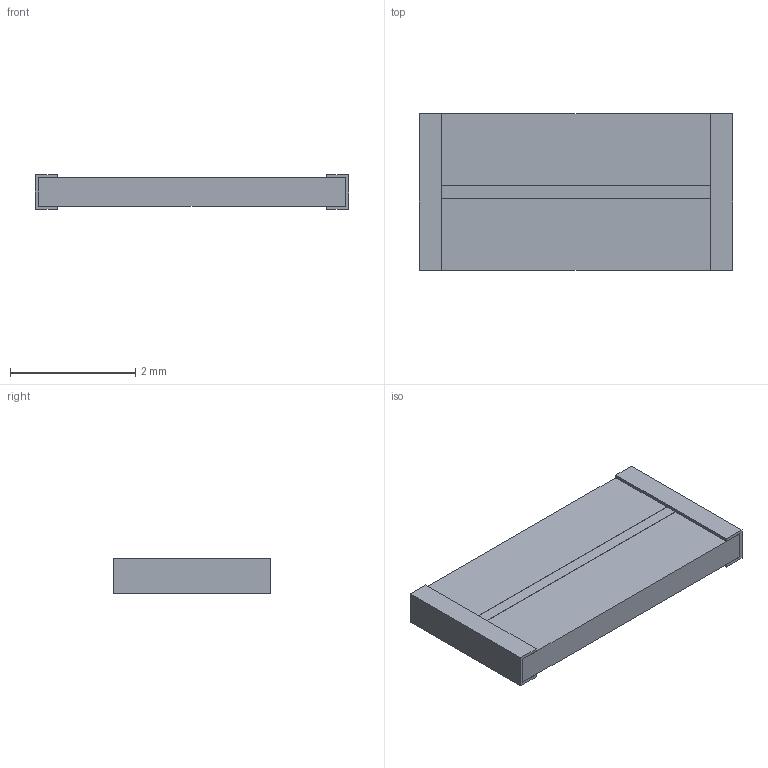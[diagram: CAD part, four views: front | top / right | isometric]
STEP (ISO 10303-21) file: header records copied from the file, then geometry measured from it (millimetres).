
FILE_DESCRIPTION(('STEP AP203'), '1');
FILE_NAME('Ð1-8 2010 ', '', ('UNSPECIFIED'), ('UNSPECIFIED'), 'ASCON STEP Converter 1.6', 'ASCON Math Kernel', '');
FILE_SCHEMA(('CONFIG_CONTROL_DESIGN'));
Length unit declared in the file: millimetre
Bounding box: 5 x 2.5 x 0.55 mm (x, y, z)
Volume: 5.8 mm3; surface area: 45.5 mm2
Topology: 4 solids, 5 shells, 51 faces, 123 edges, 82 vertices
Faces by surface type: plane 47, cylinder 4
Entity records: 1937 total; most frequent: CARTESIAN_POINT 257, ORIENTED_EDGE 246, DIRECTION 235, EDGE_CURVE 123, LINE 115, VECTOR 115, VERTEX_POINT 82, AXIS2_PLACEMENT_3D 60
